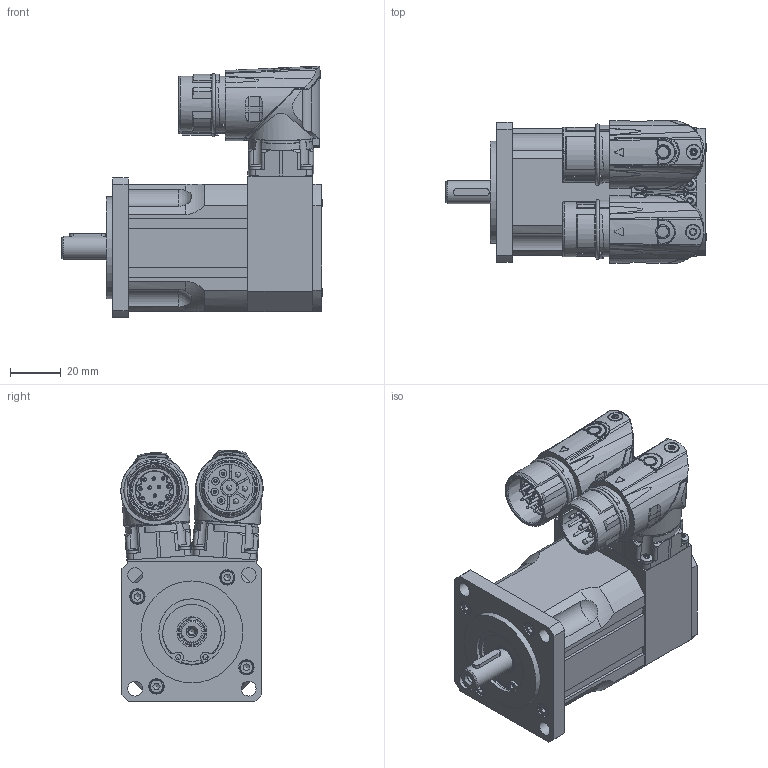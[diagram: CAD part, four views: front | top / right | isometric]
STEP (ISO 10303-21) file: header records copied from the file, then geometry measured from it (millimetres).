
FILE_DESCRIPTION(/* description */ (''),/* implementation_level */ '2;1');
FILE_NAME(/* name */ 'V:\2\N2057 00 P\3D_Z\N2057 00 P Z_0054_S4_S1_8P_12P.stp',/* time_stamp */ '2018-01-31T13:08:32+01:00',/* author */ ('simik'),/* organization */ (''),/* preprocessor_version */ 'ST-DEVELOPER v17',/* originating_system */ 'Autodesk Inventor 2018',/* authorisation */ '');
FILE_SCHEMA (('AUTOMOTIVE_DESIGN { 1 0 10303 214 3 1 1 }'));
Products named in the file (9): N2057 00 P Z_0054_S4_S1_8P_12P; N2057 00 P Z_front; N2057 00 P Z_0054_rear; AED_0201_12-polig, Stift; 124888; 127323; BED_0201_8-polig, Stift; Basis 2; Basis 11
Assembly tree (8 placements, depth 3):
  N2057 00 P Z_0054_S4_S1_8P_12P
    N2057 00 P Z_front
    N2057 00 P Z_0054_rear
    AED_0201_12-polig, Stift
      124888
      127323
    BED_0201_8-polig, Stift
      Basis 2
      Basis 11
Bounding box: 102.2 x 55.85 x 98.91 mm (x, y, z)
Volume: 263062.7 mm3; surface area: 57335.5 mm2
Topology: 6 solids, 9 shells, 1806 faces, 4801 edges, 3059 vertices
Faces by surface type: cylinder 799, plane 519, bspline 256, cone 113, torus 81, sphere 38
Full cylindrical faces by diameter (mm): 1 x16, 1.18 x12, 1.2 x12, 1.3 x4, 2 x6, 2.013 x2, 2.208 x8, 2.4 x8, 2.459 x1, 2.5 x8, 2.7 x4, 2.8 x4, 3 x9, 3.1 x4, 3.2 x6, 4.5 x2, 5.5 x6, 5.6 x4, 5.8 x5, 5.9 x2, 6 x4, 6.5 x4, 6.8 x1, 7.53 x1, 9 x1, 9.5 x1, 10 x3, 15.2 x1, 17.4 x1, 17.955 x1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
Entity records: 71570 total; most frequent: CARTESIAN_POINT 24903, ORIENTED_EDGE 9506, DIRECTION 9366, EDGE_CURVE 4753, AXIS2_PLACEMENT_3D 3887, VERTEX_POINT 3059, CIRCLE 2106, EDGE_LOOP 2010
